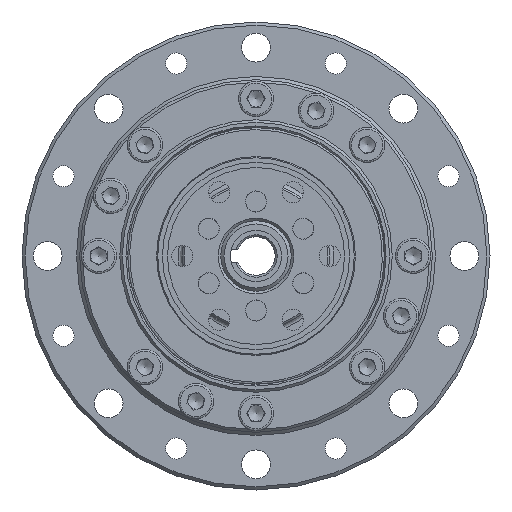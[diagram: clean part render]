
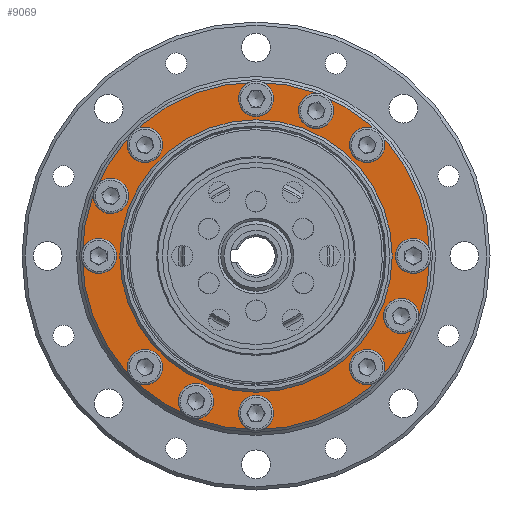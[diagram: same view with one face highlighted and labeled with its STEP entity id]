
A CAD part, left-side view. The second image highlights one B-rep face of the part: STEP entity #9069.
In plain terms, the highlighted planar face has unit normal (-1, 0, 0).
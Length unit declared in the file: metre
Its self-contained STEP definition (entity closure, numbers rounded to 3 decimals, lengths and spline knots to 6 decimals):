
#68 = VERTEX_POINT ( 'NONE', #8988 ) ;
#203 = CARTESIAN_POINT ( 'NONE',  ( -0.021, -0.022635, -0.011126 ) ) ;
#233 = CARTESIAN_POINT ( 'NONE',  ( -0.021, 0.022635, 0.009376 ) ) ;
#425 = DIRECTION ( 'NONE',  ( 1., 0., 0. ) ) ;
#449 = CARTESIAN_POINT ( 'NONE',  ( -0.021, 0.017324, -0.019074 ) ) ;
#692 = DIRECTION ( 'NONE',  ( 0., 0., -1. ) ) ;
#988 = AXIS2_PLACEMENT_3D ( 'NONE', #17229, #13251, #6867 ) ;
#1609 = DIRECTION ( 'NONE',  ( 0., 0., -1. ) ) ;
#1710 = VERTEX_POINT ( 'NONE', #5808 ) ;
#2286 = EDGE_LOOP ( 'NONE', ( #9343 ) ) ;
#2359 = EDGE_LOOP ( 'NONE', ( #15648 ) ) ;
#2521 = EDGE_LOOP ( 'NONE', ( #5375 ) ) ;
#2556 = ORIENTED_EDGE ( 'NONE', *, *, #24873, .T. ) ;
#2698 = EDGE_LOOP ( 'NONE', ( #11124 ) ) ;
#2719 = VERTEX_POINT ( 'NONE', #7383 ) ;
#3214 = FACE_BOUND ( 'NONE', #17493, .T. ) ;
#3487 = DIRECTION ( 'NONE',  ( 1., 0., 0. ) ) ;
#3637 = ORIENTED_EDGE ( 'NONE', *, *, #8328, .T. ) ;
#4102 = AXIS2_PLACEMENT_3D ( 'NONE', #25969, #6542, #1609 ) ;
#4290 = CIRCLE ( 'NONE', #21034, 0.00175 ) ;
#4343 = CARTESIAN_POINT ( 'NONE',  ( -0.021, -0.009376, 0.022635 ) ) ;
#4574 = AXIS2_PLACEMENT_3D ( 'NONE', #21178, #27014, #12242 ) ;
#5096 = AXIS2_PLACEMENT_3D ( 'NONE', #15683, #19805, #24359 ) ;
#5305 = AXIS2_PLACEMENT_3D ( 'NONE', #6148, #12673, #6700 ) ;
#5375 = ORIENTED_EDGE ( 'NONE', *, *, #16593, .T. ) ;
#5480 = EDGE_LOOP ( 'NONE', ( #10683 ) ) ;
#5637 = CARTESIAN_POINT ( 'NONE',  ( -0.021, -0.017324, 0.015574 ) ) ;
#5638 = CIRCLE ( 'NONE', #16465, 0.0271 ) ;
#5808 = CARTESIAN_POINT ( 'NONE',  ( -0.021, -0.0245, -0.00175 ) ) ;
#5928 = CIRCLE ( 'NONE', #4574, 0.00175 ) ;
#6107 = EDGE_CURVE ( 'NONE', #23311, #23311, #18600, .T. ) ;
#6148 = CARTESIAN_POINT ( 'NONE',  ( -0.021, 0.0245, 0. ) ) ;
#6542 = DIRECTION ( 'NONE',  ( 1., 0., 0. ) ) ;
#6616 = DIRECTION ( 'NONE',  ( 1., 0., 0. ) ) ;
#6640 = CARTESIAN_POINT ( 'NONE',  ( -0.021, -0.017324, 0.017324 ) ) ;
#6700 = DIRECTION ( 'NONE',  ( 0., 0., -1. ) ) ;
#6864 = EDGE_LOOP ( 'NONE', ( #14254 ) ) ;
#6867 = DIRECTION ( 'NONE',  ( 0., 0., -1. ) ) ;
#7148 = CIRCLE ( 'NONE', #24366, 0.00175 ) ;
#7171 = FACE_BOUND ( 'NONE', #2521, .T. ) ;
#7213 = CARTESIAN_POINT ( 'NONE',  ( -0.021, 0.017324, 0.017324 ) ) ;
#7237 = CARTESIAN_POINT ( 'NONE',  ( -0.021, 0., 0.02125 ) ) ;
#7285 = EDGE_CURVE ( 'NONE', #68, #68, #10494, .T. ) ;
#7373 = ORIENTED_EDGE ( 'NONE', *, *, #26477, .F. ) ;
#7383 = CARTESIAN_POINT ( 'NONE',  ( -0.021, -0.017324, -0.019074 ) ) ;
#7765 = VERTEX_POINT ( 'NONE', #5637 ) ;
#8328 = EDGE_CURVE ( 'NONE', #19615, #19615, #17313, .T. ) ;
#8366 = DIRECTION ( 'NONE',  ( 0., 0., -1. ) ) ;
#8764 = CARTESIAN_POINT ( 'NONE',  ( -0.021, 0.009376, -0.022635 ) ) ;
#8988 = CARTESIAN_POINT ( 'NONE',  ( -0.021, -0.009376, 0.020885 ) ) ;
#9069 = ADVANCED_FACE ( 'NONE', ( #22621, #20210, #26898, #26750, #13826, #24625, #22900, #7171, #16091, #18516, #20774, #3214, #15809, #20495 ), #20632, .F. ) ;
#9216 = AXIS2_PLACEMENT_3D ( 'NONE', #11576, #3487, #14098 ) ;
#9343 = ORIENTED_EDGE ( 'NONE', *, *, #22543, .T. ) ;
#9524 = ORIENTED_EDGE ( 'NONE', *, *, #14513, .F. ) ;
#9824 = AXIS2_PLACEMENT_3D ( 'NONE', #8764, #6616, #27634 ) ;
#10006 = AXIS2_PLACEMENT_3D ( 'NONE', #24520, #22932, #11890 ) ;
#10486 = DIRECTION ( 'NONE',  ( 1., 0., 0. ) ) ;
#10494 = CIRCLE ( 'NONE', #13647, 0.00175 ) ;
#10683 = ORIENTED_EDGE ( 'NONE', *, *, #7285, .T. ) ;
#10982 = EDGE_LOOP ( 'NONE', ( #7373 ) ) ;
#11124 = ORIENTED_EDGE ( 'NONE', *, *, #15466, .T. ) ;
#11519 = EDGE_LOOP ( 'NONE', ( #13140 ) ) ;
#11576 = CARTESIAN_POINT ( 'NONE',  ( -0.021, 0.02125, 0. ) ) ;
#11639 = CARTESIAN_POINT ( 'NONE',  ( -0.021, 0., 0.02275 ) ) ;
#11890 = DIRECTION ( 'NONE',  ( 0., 0., 1. ) ) ;
#12242 = DIRECTION ( 'NONE',  ( 0., 0., -1. ) ) ;
#12673 = DIRECTION ( 'NONE',  ( 1., 0., 0. ) ) ;
#12796 = CIRCLE ( 'NONE', #20034, 0.00175 ) ;
#12841 = CARTESIAN_POINT ( 'NONE',  ( -0.021, -0.0245, 0. ) ) ;
#12866 = EDGE_LOOP ( 'NONE', ( #22383 ) ) ;
#12984 = DIRECTION ( 'NONE',  ( 1., 0., 0. ) ) ;
#13140 = ORIENTED_EDGE ( 'NONE', *, *, #6107, .T. ) ;
#13251 = DIRECTION ( 'NONE',  ( 1., 0., 0. ) ) ;
#13647 = AXIS2_PLACEMENT_3D ( 'NONE', #4343, #12984, #21645 ) ;
#13826 = FACE_BOUND ( 'NONE', #22676, .T. ) ;
#14037 = EDGE_CURVE ( 'NONE', #19857, #19857, #14472, .T. ) ;
#14058 = CARTESIAN_POINT ( 'NONE',  ( -0.021, 0.017324, 0.015574 ) ) ;
#14098 = DIRECTION ( 'NONE',  ( 0., 0., -1. ) ) ;
#14254 = ORIENTED_EDGE ( 'NONE', *, *, #17773, .T. ) ;
#14472 = CIRCLE ( 'NONE', #4102, 0.00175 ) ;
#14513 = EDGE_CURVE ( 'NONE', #17875, #17875, #20862, .T. ) ;
#14806 = EDGE_CURVE ( 'NONE', #2719, #2719, #5928, .T. ) ;
#14936 = ORIENTED_EDGE ( 'NONE', *, *, #24596, .T. ) ;
#15083 = DIRECTION ( 'NONE',  ( 1., 0., 0. ) ) ;
#15415 = DIRECTION ( 'NONE',  ( 1., 0., 0. ) ) ;
#15466 = EDGE_CURVE ( 'NONE', #22131, #22131, #25433, .T. ) ;
#15648 = ORIENTED_EDGE ( 'NONE', *, *, #14037, .T. ) ;
#15683 = CARTESIAN_POINT ( 'NONE',  ( -0.021, -0.022635, -0.009376 ) ) ;
#15809 = FACE_BOUND ( 'NONE', #19945, .T. ) ;
#16091 = FACE_BOUND ( 'NONE', #2359, .T. ) ;
#16166 = EDGE_LOOP ( 'NONE', ( #9524 ) ) ;
#16465 = AXIS2_PLACEMENT_3D ( 'NONE', #27960, #27542, #21141 ) ;
#16593 = EDGE_CURVE ( 'NONE', #18440, #18440, #12796, .T. ) ;
#17229 = CARTESIAN_POINT ( 'NONE',  ( -0.021, 0., 0.0245 ) ) ;
#17313 = CIRCLE ( 'NONE', #5096, 0.00175 ) ;
#17493 = EDGE_LOOP ( 'NONE', ( #3637 ) ) ;
#17511 = DIRECTION ( 'NONE',  ( 0., 0., -1. ) ) ;
#17773 = EDGE_CURVE ( 'NONE', #1710, #1710, #4290, .T. ) ;
#17875 = VERTEX_POINT ( 'NONE', #7237 ) ;
#18440 = VERTEX_POINT ( 'NONE', #24262 ) ;
#18516 = FACE_BOUND ( 'NONE', #2286, .T. ) ;
#18600 = CIRCLE ( 'NONE', #19944, 0.00175 ) ;
#19389 = CARTESIAN_POINT ( 'NONE',  ( -0.021, 0., -0.0271 ) ) ;
#19615 = VERTEX_POINT ( 'NONE', #203 ) ;
#19805 = DIRECTION ( 'NONE',  ( 1., 0., 0. ) ) ;
#19857 = VERTEX_POINT ( 'NONE', #449 ) ;
#19944 = AXIS2_PLACEMENT_3D ( 'NONE', #233, #26303, #17511 ) ;
#19945 = EDGE_LOOP ( 'NONE', ( #2556 ) ) ;
#20034 = AXIS2_PLACEMENT_3D ( 'NONE', #27793, #10486, #8366 ) ;
#20210 = FACE_BOUND ( 'NONE', #16166, .T. ) ;
#20381 = CARTESIAN_POINT ( 'NONE',  ( -0.021, 0.0245, -0.00175 ) ) ;
#20495 = FACE_BOUND ( 'NONE', #11519, .T. ) ;
#20632 = PLANE ( 'NONE',  #9216 ) ;
#20743 = EDGE_LOOP ( 'NONE', ( #27254 ) ) ;
#20774 = FACE_BOUND ( 'NONE', #5480, .T. ) ;
#20862 = CIRCLE ( 'NONE', #10006, 0.02125 ) ;
#21034 = AXIS2_PLACEMENT_3D ( 'NONE', #12841, #15083, #21492 ) ;
#21064 = CIRCLE ( 'NONE', #22878, 0.00175 ) ;
#21141 = DIRECTION ( 'NONE',  ( 0., 0., -1. ) ) ;
#21178 = CARTESIAN_POINT ( 'NONE',  ( -0.021, -0.017324, -0.017324 ) ) ;
#21492 = DIRECTION ( 'NONE',  ( 0., 0., -1. ) ) ;
#21510 = CARTESIAN_POINT ( 'NONE',  ( -0.021, 0.009376, -0.024385 ) ) ;
#21645 = DIRECTION ( 'NONE',  ( 0., 0., -1. ) ) ;
#22044 = CIRCLE ( 'NONE', #9824, 0.00175 ) ;
#22060 = VERTEX_POINT ( 'NONE', #14058 ) ;
#22131 = VERTEX_POINT ( 'NONE', #11639 ) ;
#22383 = ORIENTED_EDGE ( 'NONE', *, *, #27738, .T. ) ;
#22388 = DIRECTION ( 'NONE',  ( 0., 0., -1. ) ) ;
#22543 = EDGE_CURVE ( 'NONE', #26781, #26781, #27505, .T. ) ;
#22621 = FACE_OUTER_BOUND ( 'NONE', #10982, .T. ) ;
#22676 = EDGE_LOOP ( 'NONE', ( #14936 ) ) ;
#22793 = VERTEX_POINT ( 'NONE', #21510 ) ;
#22878 = AXIS2_PLACEMENT_3D ( 'NONE', #7213, #425, #22388 ) ;
#22900 = FACE_BOUND ( 'NONE', #20743, .T. ) ;
#22932 = DIRECTION ( 'NONE',  ( -1., 0., 0. ) ) ;
#23311 = VERTEX_POINT ( 'NONE', #25448 ) ;
#24262 = CARTESIAN_POINT ( 'NONE',  ( -0.021, 0., -0.02625 ) ) ;
#24359 = DIRECTION ( 'NONE',  ( 0., 0., -1. ) ) ;
#24366 = AXIS2_PLACEMENT_3D ( 'NONE', #6640, #15415, #692 ) ;
#24520 = CARTESIAN_POINT ( 'NONE',  ( -0.021, 0., 0. ) ) ;
#24596 = EDGE_CURVE ( 'NONE', #7765, #7765, #7148, .T. ) ;
#24625 = FACE_BOUND ( 'NONE', #6864, .T. ) ;
#24873 = EDGE_CURVE ( 'NONE', #22793, #22793, #22044, .T. ) ;
#25433 = CIRCLE ( 'NONE', #988, 0.00175 ) ;
#25448 = CARTESIAN_POINT ( 'NONE',  ( -0.021, 0.022635, 0.007626 ) ) ;
#25769 = VERTEX_POINT ( 'NONE', #19389 ) ;
#25969 = CARTESIAN_POINT ( 'NONE',  ( -0.021, 0.017324, -0.017324 ) ) ;
#26303 = DIRECTION ( 'NONE',  ( 1., 0., 0. ) ) ;
#26477 = EDGE_CURVE ( 'NONE', #25769, #25769, #5638, .T. ) ;
#26750 = FACE_BOUND ( 'NONE', #2698, .T. ) ;
#26781 = VERTEX_POINT ( 'NONE', #20381 ) ;
#26898 = FACE_BOUND ( 'NONE', #12866, .T. ) ;
#27014 = DIRECTION ( 'NONE',  ( 1., 0., 0. ) ) ;
#27254 = ORIENTED_EDGE ( 'NONE', *, *, #14806, .T. ) ;
#27505 = CIRCLE ( 'NONE', #5305, 0.00175 ) ;
#27542 = DIRECTION ( 'NONE',  ( 1., 0., 0. ) ) ;
#27634 = DIRECTION ( 'NONE',  ( 0., 0., -1. ) ) ;
#27738 = EDGE_CURVE ( 'NONE', #22060, #22060, #21064, .T. ) ;
#27793 = CARTESIAN_POINT ( 'NONE',  ( -0.021, 0., -0.0245 ) ) ;
#27960 = CARTESIAN_POINT ( 'NONE',  ( -0.021, 0., 0. ) ) ;
